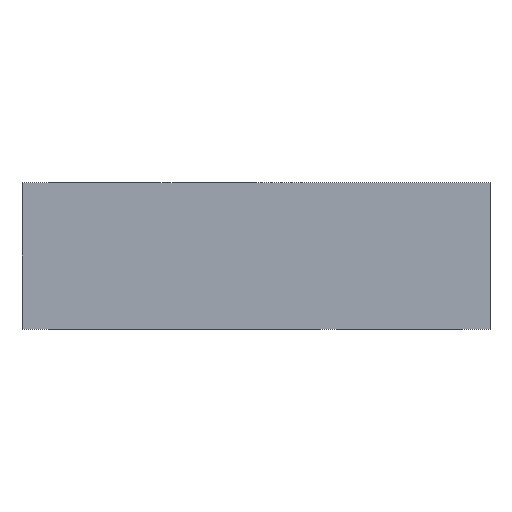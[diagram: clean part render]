
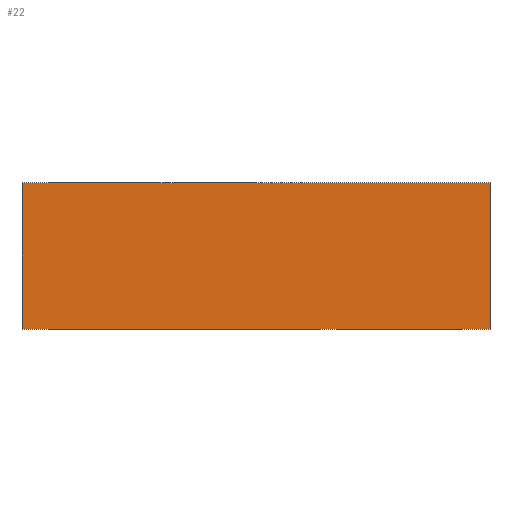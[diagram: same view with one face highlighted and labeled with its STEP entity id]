
A CAD part, front view. The second image highlights one B-rep face of the part: STEP entity #22.
In plain terms, the highlighted planar face has unit normal (0, -1, 0).
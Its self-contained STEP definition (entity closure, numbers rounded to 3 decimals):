
#22 = ADVANCED_FACE ( 'NONE', ( #375 ), #724, .F. ) ;
#72 = AXIS2_PLACEMENT_3D ( 'NONE', #727, #733, #734 ) ;
#171 = EDGE_LOOP ( 'NONE', ( #303, #298, #299, #189 ) ) ;
#189 = ORIENTED_EDGE ( 'NONE', *, *, #1006, .T. ) ;
#298 = ORIENTED_EDGE ( 'NONE', *, *, #992, .F. ) ;
#299 = ORIENTED_EDGE ( 'NONE', *, *, #1229, .F. ) ;
#303 = ORIENTED_EDGE ( 'NONE', *, *, #1003, .T. ) ;
#375 = FACE_OUTER_BOUND ( 'NONE', #171, .T. ) ;
#423 = VECTOR ( 'NONE', #1125, 1000. ) ;
#424 = LINE ( 'NONE', #1124, #423 ) ;
#437 = LINE ( 'NONE', #1145, #446 ) ;
#446 = VECTOR ( 'NONE', #1148, 1000. ) ;
#447 = LINE ( 'NONE', #1151, #452 ) ;
#452 = VECTOR ( 'NONE', #1154, 1000. ) ;
#587 = LINE ( 'NONE', #684, #588 ) ;
#588 = VECTOR ( 'NONE', #685, 1000. ) ;
#684 = CARTESIAN_POINT ( 'NONE',  ( -104., 0., 65. ) ) ;
#685 = DIRECTION ( 'NONE',  ( 1., 0., 0. ) ) ;
#724 = PLANE ( 'NONE',  #72 ) ;
#727 = CARTESIAN_POINT ( 'NONE',  ( -104., 0., 65. ) ) ;
#733 = DIRECTION ( 'NONE',  ( 0., 1., 0. ) ) ;
#734 = DIRECTION ( 'NONE',  ( -1., 0., 0. ) ) ;
#806 = VERTEX_POINT ( 'NONE', #934 ) ;
#807 = VERTEX_POINT ( 'NONE', #935 ) ;
#809 = VERTEX_POINT ( 'NONE', #937 ) ;
#869 = VERTEX_POINT ( 'NONE', #1122 ) ;
#934 = CARTESIAN_POINT ( 'NONE',  ( -104., 0., 65. ) ) ;
#935 = CARTESIAN_POINT ( 'NONE',  ( 104., 0., 0. ) ) ;
#937 = CARTESIAN_POINT ( 'NONE',  ( -104., 0., 0. ) ) ;
#992 = EDGE_CURVE ( 'NONE', #869, #807, #424, .T. ) ;
#1003 = EDGE_CURVE ( 'NONE', #809, #807, #437, .T. ) ;
#1006 = EDGE_CURVE ( 'NONE', #806, #809, #447, .T. ) ;
#1122 = CARTESIAN_POINT ( 'NONE',  ( 104., 0., 65. ) ) ;
#1124 = CARTESIAN_POINT ( 'NONE',  ( 104., 0., 65. ) ) ;
#1125 = DIRECTION ( 'NONE',  ( 0., 0., -1. ) ) ;
#1145 = CARTESIAN_POINT ( 'NONE',  ( -104., 0., 0. ) ) ;
#1148 = DIRECTION ( 'NONE',  ( 1., 0., 0. ) ) ;
#1151 = CARTESIAN_POINT ( 'NONE',  ( -104., 0., 65. ) ) ;
#1154 = DIRECTION ( 'NONE',  ( 0., 0., -1. ) ) ;
#1229 = EDGE_CURVE ( 'NONE', #806, #869, #587, .T. ) ;
